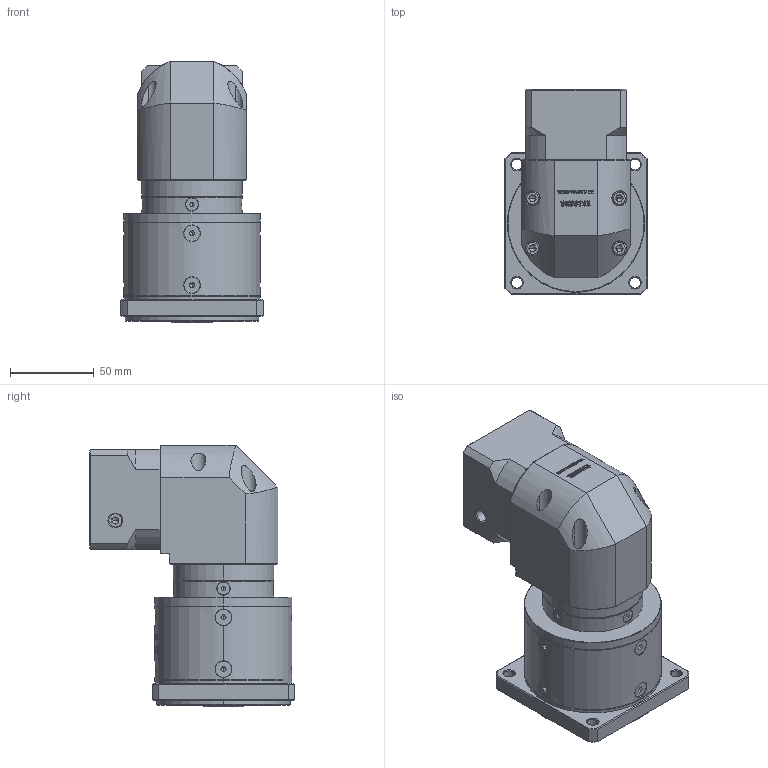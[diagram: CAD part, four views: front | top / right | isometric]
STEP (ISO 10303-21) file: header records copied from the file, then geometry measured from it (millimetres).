
FILE_DESCRIPTION (( 'STEP AP214' ), '1' );
FILE_NAME ('ZFR80-K15-L2-6.35-38.1-47.14x47.14-M4.step', '2022-05-08T14:59:18', ( '' ), ( 'Microsoft' ), 'SwSTEP 2.0', 'SolidWorks 2016', '' );
FILE_SCHEMA (( 'AUTOMOTIVE_DESIGN' ));
Length unit declared in the file: millimetre
Products named in the file (1): ZFR80-K15-L2-6.35-38.1-47.14x47.14-M4
Bounding box: 85 x 122.7 x 156.5 mm (x, y, z)
Volume: 772936.3 mm3; surface area: 102576.9 mm2
Topology: 17 solids, 18 shells, 3024 faces, 8043 edges, 5176 vertices
Faces by surface type: plane 1595, bspline 610, cylinder 435, cone 376, torus 8
Entity records: 157430 total; most frequent: CARTESIAN_POINT 54172, ORIENTED_EDGE 15998, DIRECTION 12184, EDGE_CURVE 7999, VERTEX_POINT 5176, LINE 4928, VECTOR 4928, AXIS2_PLACEMENT_3D 3628
